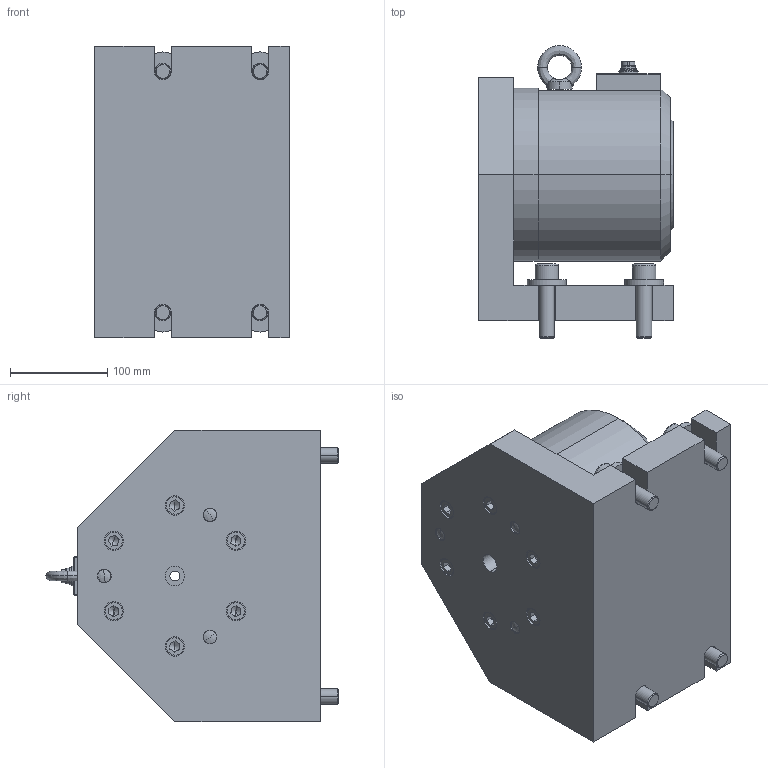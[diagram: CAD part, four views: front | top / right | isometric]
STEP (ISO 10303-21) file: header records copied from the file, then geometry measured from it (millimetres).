
FILE_DESCRIPTION (( 'STEP AP214' ), '1' );
FILE_NAME ('DRT4 mit Haltewinkel.STEP', '2020-02-12T07:49:20', ( 'nsi' ), ( '' ), 'SwSTEP 2.0', 'SolidWorks 2020', '' );
FILE_SCHEMA (( 'AUTOMOTIVE_DESIGN' ));
Length unit declared in the file: millimetre
Products named in the file (1): DRT4 mit Haltewinkel
Bounding box: 200 x 300.7 x 300 mm (x, y, z)
Surface area: 497075.3 mm2 (no closed solid volume)
Topology: 0 solids, 32 shells, 372 faces, 1159 edges, 803 vertices
Faces by surface type: plane 148, cylinder 94, cone 69, torus 45, sphere 10, bspline 6
Entity records: 19055 total; most frequent: CARTESIAN_POINT 4772, DIRECTION 2171, ORIENTED_EDGE 1903, EDGE_CURVE 1136, AXIS2_PLACEMENT_3D 847, VERTEX_POINT 803, CIRCLE 480, VECTOR 477
